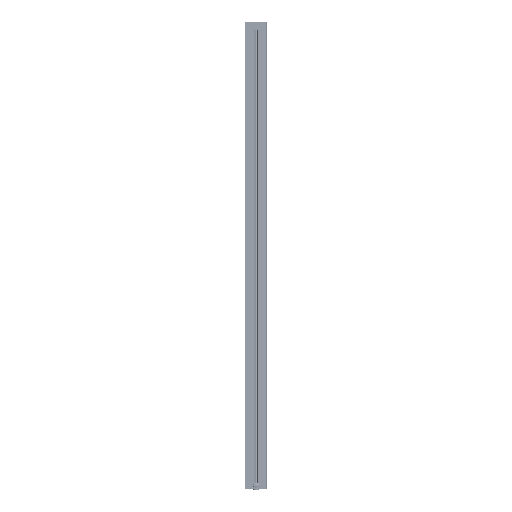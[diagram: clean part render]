
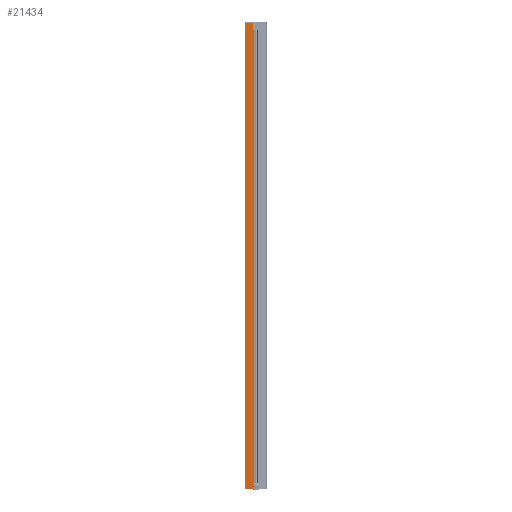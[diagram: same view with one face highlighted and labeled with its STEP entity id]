
A CAD part, left-side view. The second image highlights one B-rep face of the part: STEP entity #21434.
In plain terms, the highlighted planar face has unit normal (-1, 0, 0).
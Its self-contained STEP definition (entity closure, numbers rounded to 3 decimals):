
#32 = CARTESIAN_POINT ( 'NONE',  ( -16., 13.85, -1016.9 ) ) ;
#178 = ORIENTED_EDGE ( 'NONE', *, *, #37060, .T. ) ;
#379 = EDGE_CURVE ( 'NONE', #31534, #2927, #29632, .T. ) ;
#603 = VERTEX_POINT ( 'NONE', #32 ) ;
#608 = EDGE_LOOP ( 'NONE', ( #1360, #27005, #21751, #32215, #17506, #15749, #7783, #178 ) ) ;
#1360 = ORIENTED_EDGE ( 'NONE', *, *, #34961, .T. ) ;
#1571 = DIRECTION ( 'NONE',  ( 0., 0., 1. ) ) ;
#2456 = CARTESIAN_POINT ( 'NONE',  ( -16., 13.85, 1017. ) ) ;
#2927 = VERTEX_POINT ( 'NONE', #20569 ) ;
#2965 = VECTOR ( 'NONE', #9684, 1000. ) ;
#3005 = EDGE_CURVE ( 'NONE', #37977, #12485, #14380, .T. ) ;
#4703 = LINE ( 'NONE', #16561, #21610 ) ;
#5316 = VECTOR ( 'NONE', #34479, 1000. ) ;
#5932 = DIRECTION ( 'NONE',  ( 1., 0., 0. ) ) ;
#7783 = ORIENTED_EDGE ( 'NONE', *, *, #33765, .T. ) ;
#8531 = DIRECTION ( 'NONE',  ( 0., -1., 0. ) ) ;
#8600 = CARTESIAN_POINT ( 'NONE',  ( -16., 8.776, 1017. ) ) ;
#9684 = DIRECTION ( 'NONE',  ( 0., 0., -1. ) ) ;
#10563 = CARTESIAN_POINT ( 'NONE',  ( -16., 8.776, -987.3 ) ) ;
#10586 = VERTEX_POINT ( 'NONE', #31963 ) ;
#11095 = VECTOR ( 'NONE', #8531, 1000. ) ;
#11441 = CARTESIAN_POINT ( 'NONE',  ( -16., 8.487, 1017. ) ) ;
#12174 = DIRECTION ( 'NONE',  ( 0., -1., 0. ) ) ;
#12445 = VERTEX_POINT ( 'NONE', #38204 ) ;
#12485 = VERTEX_POINT ( 'NONE', #2456 ) ;
#14380 = LINE ( 'NONE', #11441, #11095 ) ;
#14441 = LINE ( 'NONE', #8600, #35892 ) ;
#14759 = LINE ( 'NONE', #26594, #2965 ) ;
#14904 = CARTESIAN_POINT ( 'NONE',  ( -16., 13.85, 987.3 ) ) ;
#15088 = LINE ( 'NONE', #18183, #17689 ) ;
#15749 = ORIENTED_EDGE ( 'NONE', *, *, #3005, .F. ) ;
#16184 = LINE ( 'NONE', #28381, #31816 ) ;
#16561 = CARTESIAN_POINT ( 'NONE',  ( -16., 13.85, 1017. ) ) ;
#17054 = EDGE_CURVE ( 'NONE', #12485, #31534, #4703, .T. ) ;
#17506 = ORIENTED_EDGE ( 'NONE', *, *, #17054, .F. ) ;
#17689 = VECTOR ( 'NONE', #12174, 1000. ) ;
#17787 = DIRECTION ( 'NONE',  ( 0., 1., 0. ) ) ;
#17837 = EDGE_CURVE ( 'NONE', #25245, #2927, #14441, .T. ) ;
#18025 = AXIS2_PLACEMENT_3D ( 'NONE', #20836, #5932, #17787 ) ;
#18183 = CARTESIAN_POINT ( 'NONE',  ( -16., 8.487, -1016.9 ) ) ;
#19743 = VECTOR ( 'NONE', #24007, 1000. ) ;
#20569 = CARTESIAN_POINT ( 'NONE',  ( -16., 8.776, 987.3 ) ) ;
#20583 = CARTESIAN_POINT ( 'NONE',  ( -16., 13.85, 987.3 ) ) ;
#20836 = CARTESIAN_POINT ( 'NONE',  ( -16., 8.487, 1017. ) ) ;
#20943 = CARTESIAN_POINT ( 'NONE',  ( -16., 46.5, 1017. ) ) ;
#21434 = ADVANCED_FACE ( 'NONE', ( #23737 ), #35590, .F. ) ;
#21610 = VECTOR ( 'NONE', #22543, 1000. ) ;
#21751 = ORIENTED_EDGE ( 'NONE', *, *, #17837, .T. ) ;
#22543 = DIRECTION ( 'NONE',  ( 0., 0., -1. ) ) ;
#23547 = DIRECTION ( 'NONE',  ( 0., 0., 1. ) ) ;
#23737 = FACE_OUTER_BOUND ( 'NONE', #608, .T. ) ;
#24007 = DIRECTION ( 'NONE',  ( 0., -1., 0. ) ) ;
#25245 = VERTEX_POINT ( 'NONE', #10563 ) ;
#26594 = CARTESIAN_POINT ( 'NONE',  ( -16., 46.5, 1017. ) ) ;
#27005 = ORIENTED_EDGE ( 'NONE', *, *, #31129, .T. ) ;
#28381 = CARTESIAN_POINT ( 'NONE',  ( -16., 13.85, -1017. ) ) ;
#29632 = LINE ( 'NONE', #14904, #19743 ) ;
#31129 = EDGE_CURVE ( 'NONE', #12445, #25245, #37979, .T. ) ;
#31534 = VERTEX_POINT ( 'NONE', #20583 ) ;
#31816 = VECTOR ( 'NONE', #1571, 1000. ) ;
#31963 = CARTESIAN_POINT ( 'NONE',  ( -16., 46.5, -1016.9 ) ) ;
#32215 = ORIENTED_EDGE ( 'NONE', *, *, #379, .F. ) ;
#33765 = EDGE_CURVE ( 'NONE', #37977, #10586, #14759, .T. ) ;
#34479 = DIRECTION ( 'NONE',  ( 0., -1., 0. ) ) ;
#34961 = EDGE_CURVE ( 'NONE', #603, #12445, #16184, .T. ) ;
#35590 = PLANE ( 'NONE',  #18025 ) ;
#35892 = VECTOR ( 'NONE', #23547, 1000. ) ;
#37060 = EDGE_CURVE ( 'NONE', #10586, #603, #15088, .T. ) ;
#37793 = CARTESIAN_POINT ( 'NONE',  ( -16., 13.85, -987.3 ) ) ;
#37977 = VERTEX_POINT ( 'NONE', #20943 ) ;
#37979 = LINE ( 'NONE', #37793, #5316 ) ;
#38204 = CARTESIAN_POINT ( 'NONE',  ( -16., 13.85, -987.3 ) ) ;
